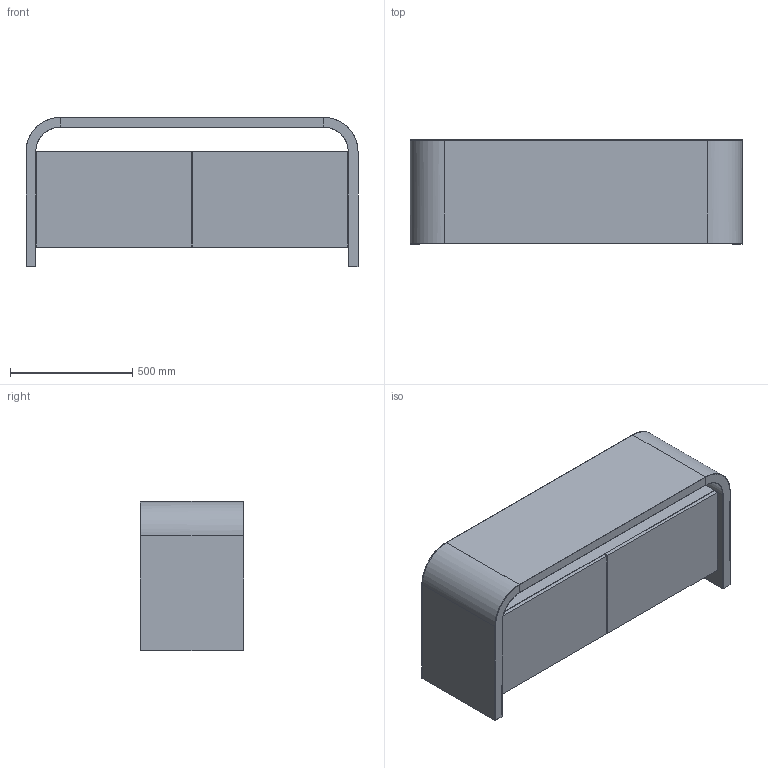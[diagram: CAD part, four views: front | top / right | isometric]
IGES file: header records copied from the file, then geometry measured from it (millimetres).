
Start section: Comment
Global section: file name: L14-2.igs; native system:  By UGS Corp.; preprocessor: XPlus GENERIC/IGES 3.0; author: Author; organization: Title; date: 20161104.123133; units: inch
Bounding box: 1358 x 425 x 610 mm (x, y, z)
Surface area: 6632964.1 mm2 (no closed solid volume)
Topology: 0 solids, 0 shells, 88 faces, 384 edges, 384 vertices
Faces by surface type: bspline 88
